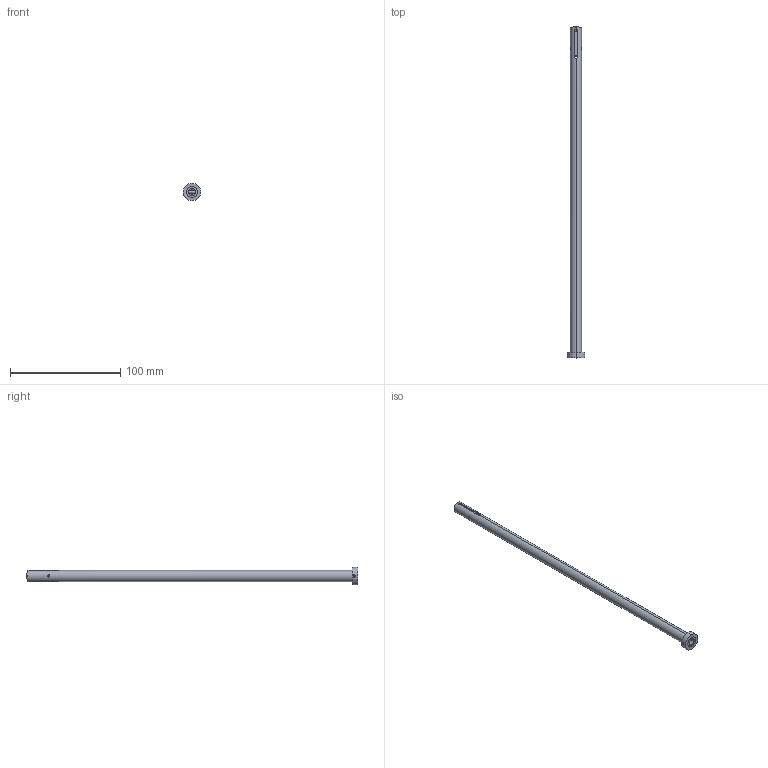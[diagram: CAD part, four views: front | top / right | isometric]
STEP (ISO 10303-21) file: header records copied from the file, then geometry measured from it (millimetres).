
FILE_DESCRIPTION (( 'STEP AP203' ), '1' );
FILE_NAME ('SGDE-1007Cx300.STEP', '2017-01-10T15:49:36', ( 'Balzi' ), ( '' ), 'SwSTEP 2.0', 'SolidWorks 2016', '' );
FILE_SCHEMA (( 'CONFIG_CONTROL_DESIGN' ));
Length unit declared in the file: millimetre
Products named in the file (1): SGDE-1007Cx300
Bounding box: 16 x 301.2 x 16 mm (x, y, z)
Volume: 15827.8 mm3; surface area: 16368.3 mm2
Topology: 1 solids, 1 shells, 86 faces, 238 edges, 156 vertices
Faces by surface type: cylinder 48, plane 32, cone 6
Entity records: 3359 total; most frequent: CARTESIAN_POINT 1081, ORIENTED_EDGE 476, DIRECTION 432, EDGE_CURVE 238, AXIS2_PLACEMENT_3D 159, VERTEX_POINT 156, LINE 114, VECTOR 114
